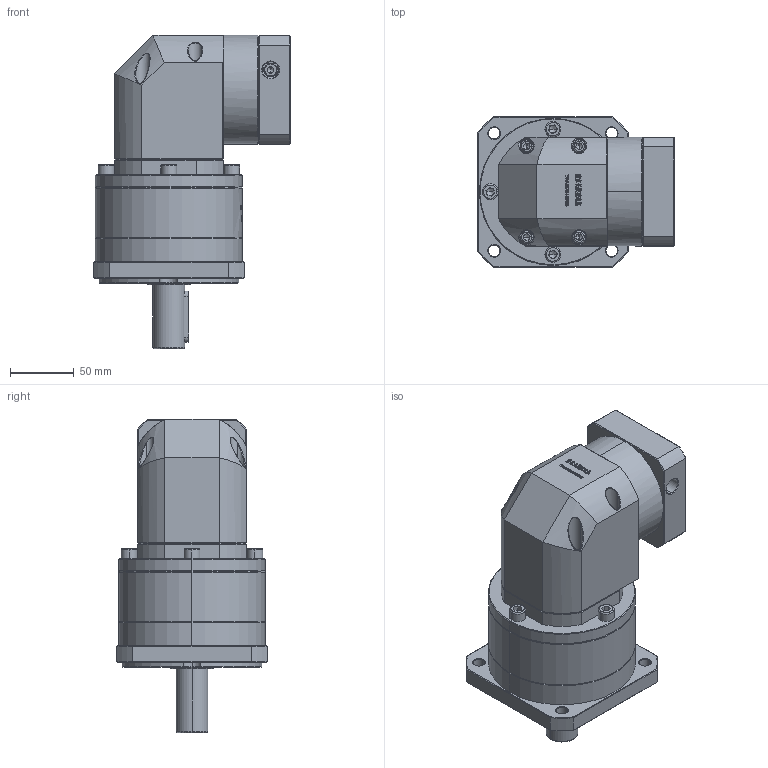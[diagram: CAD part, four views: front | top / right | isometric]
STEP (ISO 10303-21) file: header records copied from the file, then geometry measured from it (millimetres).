
FILE_DESCRIPTION (( 'STEP AP214' ), '1' );
FILE_NAME ('ZFR120A-D25-L2-14-60-75-M5.step', '2023-03-08T05:45:30', ( '' ), ( '' ), 'SwSTEP 2.0', 'SolidWorks 2016', '' );
FILE_SCHEMA (( 'AUTOMOTIVE_DESIGN' ));
Length unit declared in the file: millimetre
Products named in the file (1): ZFR120A-D25-L2-14-60-75-M5
Bounding box: 154.1 x 118 x 245 mm (x, y, z)
Volume: 1860470 mm3; surface area: 169559.8 mm2
Topology: 6 solids, 6 shells, 3010 faces, 7979 edges, 5114 vertices
Faces by surface type: plane 1597, bspline 625, cylinder 452, cone 322, torus 14
Entity records: 163747 total; most frequent: CARTESIAN_POINT 61997, ORIENTED_EDGE 15866, DIRECTION 11679, EDGE_CURVE 7933, VERTEX_POINT 5114, LINE 4977, VECTOR 4977, AXIS2_PLACEMENT_3D 3351
